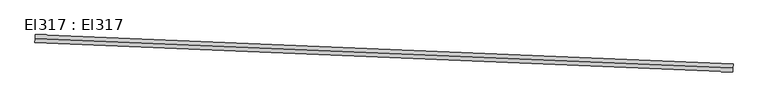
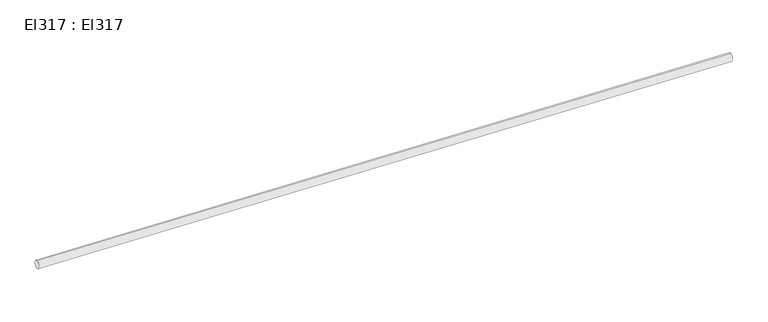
"""IFC4 building model written with IfcOpenShell, lengths in millimetres: cable carrier segment geometry, El317 : El317."""

from ifc_helpers import new_model, si_unit, point, frame, frame_2d, origin, place, context, project, spatial, circle_curve, trimmed, segment, composite_curve, outline, extrude, source, transform, mapped, element, save


def el317_el317_4cef232b(model_context):
    return source(origin(), model_context, "Body", "SweptSolid", [
        extrude(outline(composite_curve([segment(trimmed(circle_curve(frame_2d((0.0, -9.5)), 9.5), [point((0.0, -19.0))], [point((0.0, 0.0))], False, "CARTESIAN"), True, "CONTINUOUS"), segment(trimmed(circle_curve(frame_2d((0.0, -9.5)), 9.5), [point((0.0, 0.0))], [point((0.0, -19.0))], False, "CARTESIAN"), True, "CONTINUOUS")], self_intersect=False)), frame((13776.1251629, 16525.6089592, 2959.5), z_axis=(-0.9991054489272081, 0.04228831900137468, 0.0), x_axis=(-0.04228831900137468, -0.9991054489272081, 0.0)), (0.0, 0.0, 1.0), 1664.34),
    ])


if __name__ == "__main__":
    model = new_model("IFC4")
    model_context = context("Model", 3, world=origin())
    ifc_project = project(units=[si_unit("LENGTHUNIT", "METRE", prefix="MILLI")], contexts=[model_context])
    site = spatial("IfcSite", under=ifc_project)
    building = spatial("IfcBuilding", under=site)
    placement = place(None, origin())
    el317_el317_shape = el317_el317_4cef232b(model_context)
    element("IfcCableCarrierSegment", 1, ObjectType="El317 : El317", at=placement, inside=building, context=model_context, shape_type="MappedRepresentation", body=[
        mapped(el317_el317_shape, transform((0.0, 0.0, 0.0), x_axis=(1.0, 0.0, 0.0), y_axis=(0.0, 1.0, 0.0), z_axis=(0.0, 0.0, 1.0))),
    ])
    save(model, "model.ifc")
